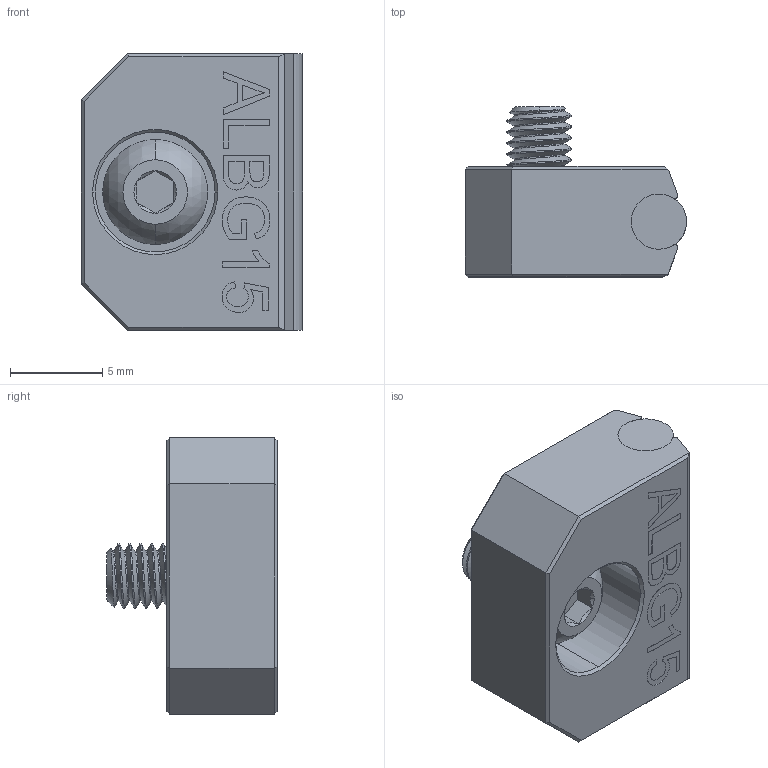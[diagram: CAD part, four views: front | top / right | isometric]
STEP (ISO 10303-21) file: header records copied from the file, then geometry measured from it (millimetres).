
FILE_DESCRIPTION (( 'STEP AP203' ), '1' );
FILE_NAME ('ALBG15_Bar_Guide.STEP', '2020-12-19T20:54:38', ( '' ), ( '' ), 'SwSTEP 2.0', 'SolidWorks 2020', '' );
FILE_SCHEMA (( 'CONFIG_CONTROL_DESIGN' ));
Length unit declared in the file: inch
Products named in the file (3): ALBG15_Bar_Guide; ALBG15_2020-03-31; M3_5x6_ BUTTON-HEAD SOCKET CAP SCREW_94500A277
Assembly tree (2 placements, depth 2):
  ALBG15_Bar_Guide
    M3_5x6_ BUTTON-HEAD SOCKET CAP SCREW_94500A277
    ALBG15_2020-03-31
Bounding box: 12 x 9.25 x 15 mm (x, y, z)
Volume: 925.8 mm3; surface area: 869.6 mm2
Topology: 2 solids, 2 shells, 148 faces, 368 edges, 236 vertices
Faces by surface type: plane 81, cylinder 32, bspline 17, cone 16, sphere 2
Entity records: 6442 total; most frequent: CARTESIAN_POINT 2829, ORIENTED_EDGE 736, DIRECTION 606, EDGE_CURVE 368, VERTEX_POINT 236, VECTOR 232, LINE 232, AXIS2_PLACEMENT_3D 187
